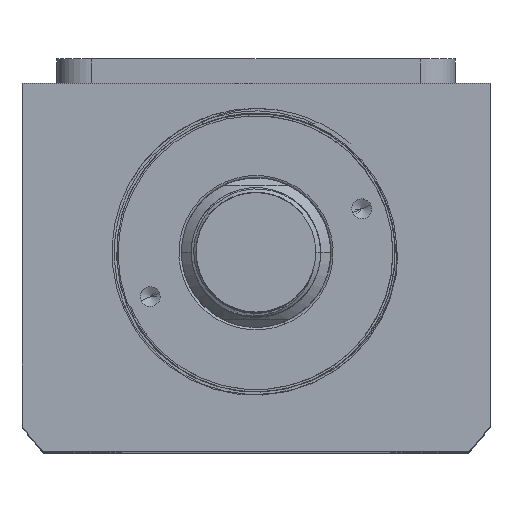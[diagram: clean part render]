
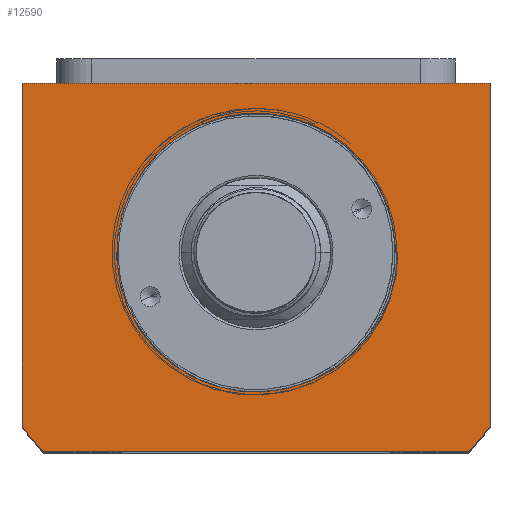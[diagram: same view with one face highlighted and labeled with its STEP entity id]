
A CAD part, top view. The second image highlights one B-rep face of the part: STEP entity #12590.
In plain terms, the highlighted planar face has unit normal (0, 0, 1).
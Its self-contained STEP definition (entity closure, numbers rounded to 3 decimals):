
#17 = B_SPLINE_CURVE_WITH_KNOTS ( 'NONE', 3,
 ( #6569, #18519, #15753, #14118, #6850, #11019, #6777, #2200, #3568, #5300, #12601, #12533, #12735, #9657, #14181, #8212, #9532, #17227, #18646, #483, #5103, #3695, #3508, #17030 ),
 .UNSPECIFIED., .F., .F.,
 ( 4, 2, 2, 2, 2, 2, 2, 2, 2, 2, 2, 4 ),
 ( 0., 0.002, 0.004, 0.009, 0.013, 0.017, 0.021, 0.023, 0.026, 0.03, 0.032, 0.034 ),
 .UNSPECIFIED. ) ;
#308 = AXIS2_PLACEMENT_3D ( 'NONE', #13482, #14986, #5862 ) ;
#395 = CARTESIAN_POINT ( 'NONE',  ( -47., -34.832, 72.5 ) ) ;
#403 = VECTOR ( 'NONE', #17637, 1000. ) ;
#454 = EDGE_CURVE ( 'NONE', #17430, #17638, #13435, .T. ) ;
#483 = CARTESIAN_POINT ( 'NONE',  ( 13.459, -24.624, 72.5 ) ) ;
#509 = ORIENTED_EDGE ( 'NONE', *, *, #13153, .T. ) ;
#641 = VECTOR ( 'NONE', #1316, 1000. ) ;
#949 = CARTESIAN_POINT ( 'NONE',  ( 47., 34., 72.5 ) ) ;
#1156 = VERTEX_POINT ( 'NONE', #13035 ) ;
#1316 = DIRECTION ( 'NONE',  ( -1., 0., 0. ) ) ;
#1530 = ORIENTED_EDGE ( 'NONE', *, *, #2881, .T. ) ;
#1760 = EDGE_CURVE ( 'NONE', #1156, #2397, #17, .T. ) ;
#2043 = ORIENTED_EDGE ( 'NONE', *, *, #17068, .F. ) ;
#2108 = CARTESIAN_POINT ( 'NONE',  ( 28., 0., 72.5 ) ) ;
#2200 = CARTESIAN_POINT ( 'NONE',  ( 26.694, -9.657, 72.5 ) ) ;
#2397 = VERTEX_POINT ( 'NONE', #16298 ) ;
#2478 = EDGE_CURVE ( 'NONE', #11796, #17430, #4184, .T. ) ;
#2881 = EDGE_CURVE ( 'NONE', #16413, #12963, #4430, .T. ) ;
#3056 = CARTESIAN_POINT ( 'NONE',  ( 0., 0., 72.5 ) ) ;
#3097 = ORIENTED_EDGE ( 'NONE', *, *, #1760, .T. ) ;
#3243 = EDGE_CURVE ( 'NONE', #12963, #11796, #7512, .T. ) ;
#3448 = LINE ( 'NONE', #3056, #18460 ) ;
#3508 = CARTESIAN_POINT ( 'NONE',  ( 10.89, -25.816, 72.5 ) ) ;
#3568 = CARTESIAN_POINT ( 'NONE',  ( 26.163, -10.961, 72.5 ) ) ;
#3695 = CARTESIAN_POINT ( 'NONE',  ( 11.542, -25.544, 72.5 ) ) ;
#4184 = CIRCLE ( 'NONE', #308, 58.5 ) ;
#4185 = PLANE ( 'NONE',  #12342 ) ;
#4430 = LINE ( 'NONE', #19280, #641 ) ;
#4449 = CARTESIAN_POINT ( 'NONE',  ( 0., 0., 72.5 ) ) ;
#4496 = ORIENTED_EDGE ( 'NONE', *, *, #16707, .T. ) ;
#4978 = CIRCLE ( 'NONE', #6318, 58.5 ) ;
#5103 = CARTESIAN_POINT ( 'NONE',  ( 12.831, -24.945, 72.5 ) ) ;
#5300 = CARTESIAN_POINT ( 'NONE',  ( 24.898, -13.504, 72.5 ) ) ;
#5461 = VERTEX_POINT ( 'NONE', #2108 ) ;
#5862 = DIRECTION ( 'NONE',  ( 1., 0., 0. ) ) ;
#5931 = CARTESIAN_POINT ( 'NONE',  ( 47., 34., 72.5 ) ) ;
#6006 = DIRECTION ( 'NONE',  ( 1., 0., 0. ) ) ;
#6245 = DIRECTION ( 'NONE',  ( 1., 0., 0. ) ) ;
#6318 = AXIS2_PLACEMENT_3D ( 'NONE', #15306, #12015, #6245 ) ;
#6355 = ORIENTED_EDGE ( 'NONE', *, *, #12681, .T. ) ;
#6513 = CARTESIAN_POINT ( 'NONE',  ( -47., -34.832, 72.5 ) ) ;
#6569 = CARTESIAN_POINT ( 'NONE',  ( 28.495, 0., 72.5 ) ) ;
#6777 = CARTESIAN_POINT ( 'NONE',  ( 27.555, -6.99, 72.5 ) ) ;
#6850 = CARTESIAN_POINT ( 'NONE',  ( 28.233, -3.538, 72.5 ) ) ;
#7110 = CIRCLE ( 'NONE', #17469, 28. ) ;
#7279 = CARTESIAN_POINT ( 'NONE',  ( 0., 0., 72.5 ) ) ;
#7512 = LINE ( 'NONE', #6513, #17074 ) ;
#7513 = DIRECTION ( 'NONE',  ( 0., 0., 1. ) ) ;
#7624 = DIRECTION ( 'NONE',  ( -1., 0., 0. ) ) ;
#8212 = CARTESIAN_POINT ( 'NONE',  ( 18.667, -21.077, 72.5 ) ) ;
#8894 = DIRECTION ( 'NONE',  ( 0., 0., -1. ) ) ;
#9532 = CARTESIAN_POINT ( 'NONE',  ( 18.129, -21.529, 72.5 ) ) ;
#9657 = CARTESIAN_POINT ( 'NONE',  ( 20.224, -19.631, 72.5 ) ) ;
#11019 = CARTESIAN_POINT ( 'NONE',  ( 27.887, -5.628, 72.5 ) ) ;
#11569 = VERTEX_POINT ( 'NONE', #12064 ) ;
#11796 = VERTEX_POINT ( 'NONE', #395 ) ;
#11846 = DIRECTION ( 'NONE',  ( 1., 0., 0. ) ) ;
#12015 = DIRECTION ( 'NONE',  ( 0., 0., 1. ) ) ;
#12064 = CARTESIAN_POINT ( 'NONE',  ( 47., -34.832, 72.5 ) ) ;
#12342 = AXIS2_PLACEMENT_3D ( 'NONE', #4449, #7513, #16236 ) ;
#12479 = DIRECTION ( 'NONE',  ( 0., -1., 0. ) ) ;
#12533 = CARTESIAN_POINT ( 'NONE',  ( 22.571, -17.007, 72.5 ) ) ;
#12590 = ADVANCED_FACE ( 'NONE', ( #13933, #17658 ), #4185, .T. ) ;
#12601 = CARTESIAN_POINT ( 'NONE',  ( 24.178, -14.712, 72.5 ) ) ;
#12681 = EDGE_CURVE ( 'NONE', #17638, #11569, #4978, .T. ) ;
#12735 = CARTESIAN_POINT ( 'NONE',  ( 21.684, -18.094, 72.5 ) ) ;
#12963 = VERTEX_POINT ( 'NONE', #17470 ) ;
#13035 = CARTESIAN_POINT ( 'NONE',  ( 28.495, 0., 72.5 ) ) ;
#13153 = EDGE_CURVE ( 'NONE', #2397, #5461, #7110, .T. ) ;
#13435 = LINE ( 'NONE', #19355, #14120 ) ;
#13482 = CARTESIAN_POINT ( 'NONE',  ( 0., 0., 72.5 ) ) ;
#13933 = FACE_BOUND ( 'NONE', #14693, .T. ) ;
#14118 = CARTESIAN_POINT ( 'NONE',  ( 28.323, -2.832, 72.5 ) ) ;
#14120 = VECTOR ( 'NONE', #11846, 1000. ) ;
#14181 = CARTESIAN_POINT ( 'NONE',  ( 19.714, -20.129, 72.5 ) ) ;
#14291 = ORIENTED_EDGE ( 'NONE', *, *, #454, .T. ) ;
#14543 = LINE ( 'NONE', #949, #403 ) ;
#14693 = EDGE_LOOP ( 'NONE', ( #2043, #3097, #509 ) ) ;
#14986 = DIRECTION ( 'NONE',  ( 0., 0., 1. ) ) ;
#15306 = CARTESIAN_POINT ( 'NONE',  ( 0., 0., 72.5 ) ) ;
#15753 = CARTESIAN_POINT ( 'NONE',  ( 28.449, -1.419, 72.5 ) ) ;
#16039 = ORIENTED_EDGE ( 'NONE', *, *, #2478, .T. ) ;
#16236 = DIRECTION ( 'NONE',  ( 1., 0., 0. ) ) ;
#16298 = CARTESIAN_POINT ( 'NONE',  ( 10.232, -26.064, 72.5 ) ) ;
#16413 = VERTEX_POINT ( 'NONE', #5931 ) ;
#16707 = EDGE_CURVE ( 'NONE', #11569, #16413, #14543, .T. ) ;
#17030 = CARTESIAN_POINT ( 'NONE',  ( 10.232, -26.064, 72.5 ) ) ;
#17031 = CARTESIAN_POINT ( 'NONE',  ( -42.688, -40., 72.5 ) ) ;
#17068 = EDGE_CURVE ( 'NONE', #1156, #5461, #3448, .T. ) ;
#17074 = VECTOR ( 'NONE', #12479, 1000. ) ;
#17227 = CARTESIAN_POINT ( 'NONE',  ( 16.467, -22.819, 72.5 ) ) ;
#17430 = VERTEX_POINT ( 'NONE', #17031 ) ;
#17469 = AXIS2_PLACEMENT_3D ( 'NONE', #7279, #8894, #6006 ) ;
#17470 = CARTESIAN_POINT ( 'NONE',  ( -47., 34., 72.5 ) ) ;
#17637 = DIRECTION ( 'NONE',  ( 0., 1., 0. ) ) ;
#17638 = VERTEX_POINT ( 'NONE', #18910 ) ;
#17658 = FACE_OUTER_BOUND ( 'NONE', #17901, .T. ) ;
#17901 = EDGE_LOOP ( 'NONE', ( #1530, #19318, #16039, #14291, #6355, #4496 ) ) ;
#18460 = VECTOR ( 'NONE', #7624, 1000. ) ;
#18519 = CARTESIAN_POINT ( 'NONE',  ( 28.485, -0.71, 72.5 ) ) ;
#18646 = CARTESIAN_POINT ( 'NONE',  ( 15.3, -23.593, 72.5 ) ) ;
#18910 = CARTESIAN_POINT ( 'NONE',  ( 42.688, -40., 72.5 ) ) ;
#19280 = CARTESIAN_POINT ( 'NONE',  ( -47., 34., 72.5 ) ) ;
#19318 = ORIENTED_EDGE ( 'NONE', *, *, #3243, .T. ) ;
#19355 = CARTESIAN_POINT ( 'NONE',  ( 42.688, -40., 72.5 ) ) ;
